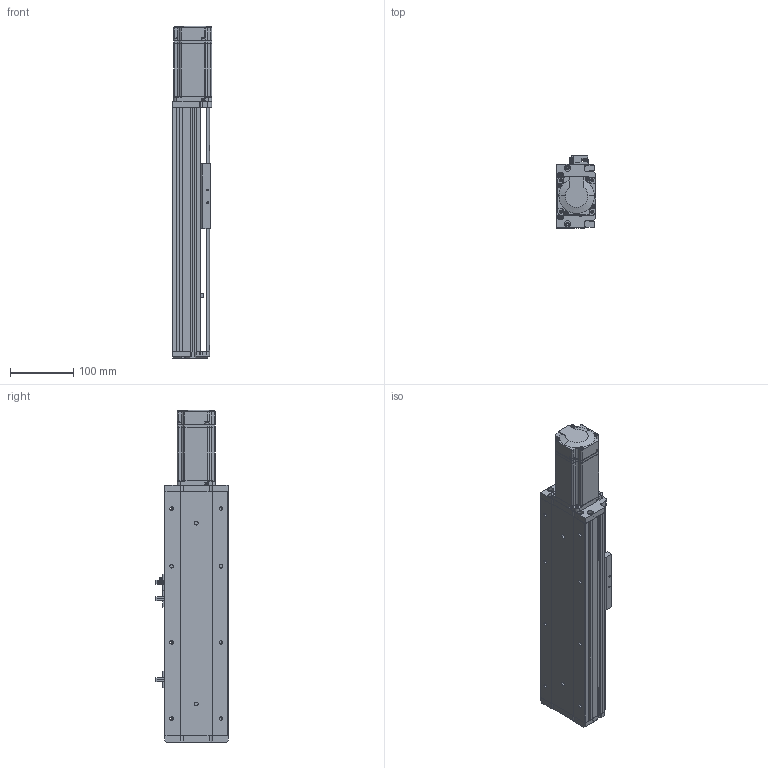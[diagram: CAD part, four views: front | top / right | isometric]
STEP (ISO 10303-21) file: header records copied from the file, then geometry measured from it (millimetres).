
FILE_DESCRIPTION (( 'STEP AP214' ), '1' );
FILE_NAME ('KSD100S-S150-MN-CM.STEP', '2019-08-30T06:49:23', ( '微软用户' ), ( '微软中国' ), 'SwSTEP 2.0', 'SolidWorks 2014', '' );
FILE_SCHEMA (( 'AUTOMOTIVE_DESIGN' ));
Length unit declared in the file: millimetre
Products named in the file (9): U倰嫖萇EEㄜSX672; 100宽防尘板丝杆150行程不带电机座; 100宽马达安装板不带电机座; 100宽滚珠螺姆安装板半封闭; 100遵傷啣; 100宽底板半封闭150行程丝杆不带电机座; KSD100S-S150-MN-CM; MHMD042G1CA_2_03; 覜茼え100遵圉猾敕
Assembly tree (10 placements, depth 2):
  KSD100S-S150-MN-CM
    100宽底板半封闭150行程丝杆不带电机座
    100遵傷啣
    100宽滚珠螺姆安装板半封闭
    100宽马达安装板不带电机座
    100宽防尘板丝杆150行程不带电机座
    U倰嫖萇EEㄜSX672  x3
    覜茼え100遵圉猾敕
    MHMD042G1CA_2_03
Bounding box: 62 x 113.7 x 523.5 mm (x, y, z)
Volume: 901651.5 mm3; surface area: 360538.3 mm2
Topology: 9 solids, 10 shells, 1254 faces, 3581 edges, 2320 vertices
Faces by surface type: plane 581, cylinder 535, cone 120, bspline 18
Entity records: 45663 total; most frequent: CARTESIAN_POINT 8088, DIRECTION 6011, ORIENTED_EDGE 5726, EDGE_CURVE 2935, AXIS2_PLACEMENT_3D 2125, VERTEX_POINT 1944, LINE 1761, VECTOR 1761
